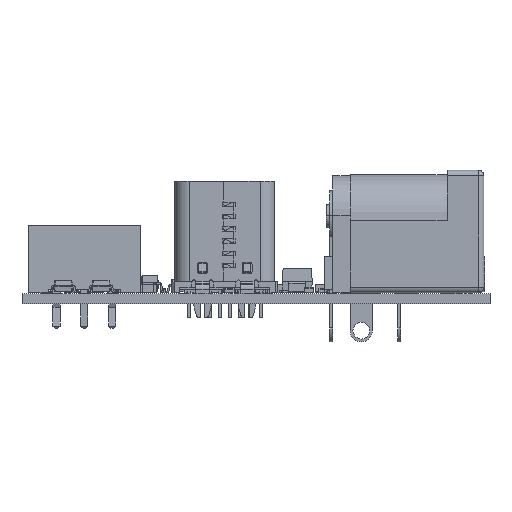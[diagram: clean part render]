
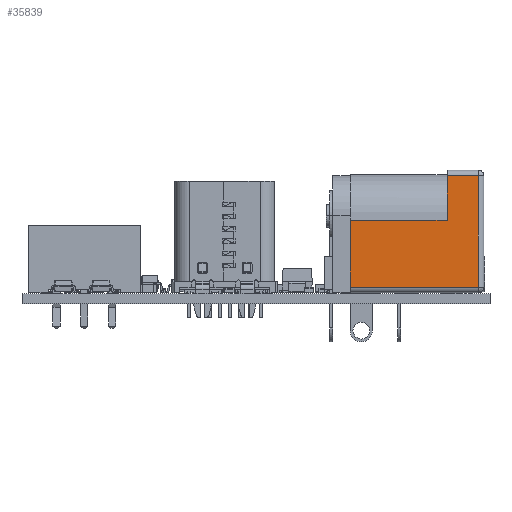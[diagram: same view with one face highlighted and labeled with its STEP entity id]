
A CAD part, left-side view. The second image highlights one B-rep face of the part: STEP entity #35839.
In plain terms, the highlighted planar face has unit normal (-1, 0, 0).
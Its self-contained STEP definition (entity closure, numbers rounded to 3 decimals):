
#35648 = VERTEX_POINT('',#35649);
#35649 = CARTESIAN_POINT('',(-4.5,6.5,-4.85));
#35655 = EDGE_CURVE('',#35656,#35648,#35658,.T.);
#35656 = VERTEX_POINT('',#35657);
#35657 = CARTESIAN_POINT('',(-4.5,6.5,3.85));
#35658 = LINE('',#35659,#35660);
#35659 = CARTESIAN_POINT('',(-4.5,6.5,-4.85));
#35660 = VECTOR('',#35661,1.);
#35661 = DIRECTION('',(0.,0.,-1.));
#35697 = VERTEX_POINT('',#35698);
#35698 = CARTESIAN_POINT('',(-4.5,0.5,-4.85));
#35705 = EDGE_CURVE('',#35648,#35697,#35706,.T.);
#35706 = LINE('',#35707,#35708);
#35707 = CARTESIAN_POINT('',(-4.5,0.,-4.85));
#35708 = VECTOR('',#35709,1.);
#35709 = DIRECTION('',(0.,-1.,-0.));
#35795 = VERTEX_POINT('',#35796);
#35796 = CARTESIAN_POINT('',(-4.5,10.5,3.85));
#35829 = EDGE_CURVE('',#35795,#35656,#35830,.T.);
#35830 = LINE('',#35831,#35832);
#35831 = CARTESIAN_POINT('',(-4.5,6.5,3.85));
#35832 = VECTOR('',#35833,1.);
#35833 = DIRECTION('',(0.,-1.,-0.));
#35839 = ADVANCED_FACE('',(#35840),#35867,.T.);
#35840 = FACE_BOUND('',#35841,.T.);
#35841 = EDGE_LOOP('',(#35842,#35843,#35844,#35845,#35853,#35861));
#35842 = ORIENTED_EDGE('',*,*,#35829,.T.);
#35843 = ORIENTED_EDGE('',*,*,#35655,.T.);
#35844 = ORIENTED_EDGE('',*,*,#35705,.T.);
#35845 = ORIENTED_EDGE('',*,*,#35846,.T.);
#35846 = EDGE_CURVE('',#35697,#35847,#35849,.T.);
#35847 = VERTEX_POINT('',#35848);
#35848 = CARTESIAN_POINT('',(-4.5,0.5,6.65));
#35849 = LINE('',#35850,#35851);
#35850 = CARTESIAN_POINT('',(-4.5,0.5,-4.85));
#35851 = VECTOR('',#35852,1.);
#35852 = DIRECTION('',(0.,0.,1.));
#35853 = ORIENTED_EDGE('',*,*,#35854,.T.);
#35854 = EDGE_CURVE('',#35847,#35855,#35857,.T.);
#35855 = VERTEX_POINT('',#35856);
#35856 = CARTESIAN_POINT('',(-4.5,10.5,6.65));
#35857 = LINE('',#35858,#35859);
#35858 = CARTESIAN_POINT('',(-4.5,11.,6.65));
#35859 = VECTOR('',#35860,1.);
#35860 = DIRECTION('',(0.,1.,-0.));
#35861 = ORIENTED_EDGE('',*,*,#35862,.T.);
#35862 = EDGE_CURVE('',#35855,#35795,#35863,.T.);
#35863 = LINE('',#35864,#35865);
#35864 = CARTESIAN_POINT('',(-4.5,10.5,-4.85));
#35865 = VECTOR('',#35866,1.);
#35866 = DIRECTION('',(-0.,-0.,-1.));
#35867 = PLANE('',#35868);
#35868 = AXIS2_PLACEMENT_3D('',#35869,#35870,#35871);
#35869 = CARTESIAN_POINT('',(-4.5,11.,-4.85));
#35870 = DIRECTION('',(-1.,0.,0.));
#35871 = DIRECTION('',(0.,-1.,0.));
